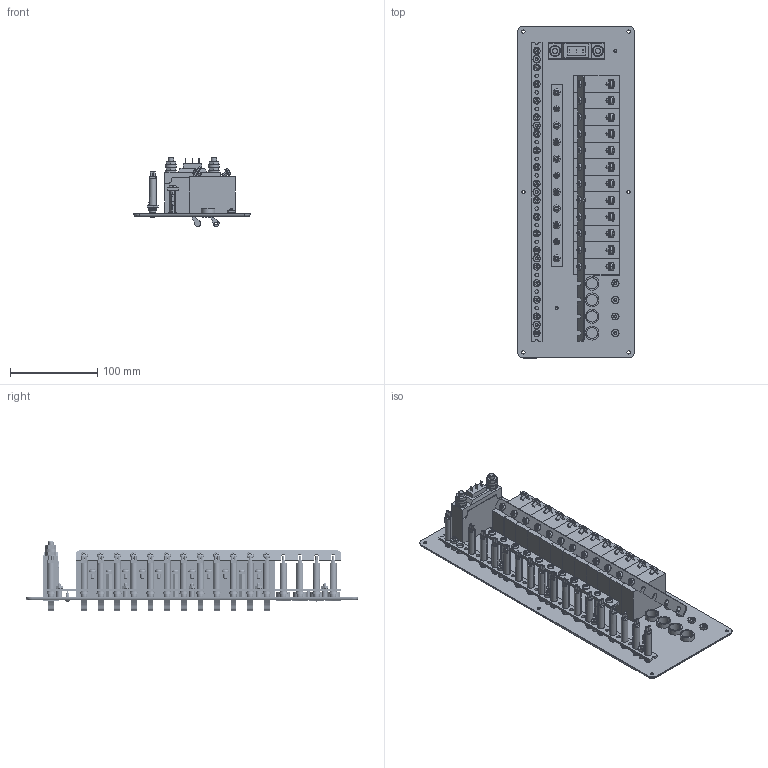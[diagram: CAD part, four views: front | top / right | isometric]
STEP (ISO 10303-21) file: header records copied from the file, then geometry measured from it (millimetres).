
FILE_DESCRIPTION((''),'2;1');
FILE_NAME('11071-0dX_3D.stp','2011-05-05T10:56:56',(''),(''),'Mechanical Desktop 2008','Mechanical Desktop 2008',', , ');
FILE_SCHEMA(('CONFIG_CONTROL_DESIGN'));
Length unit declared in the file: inch
Products named in the file (45): 11071-0DX_3D; 12355-0C1_3D; 12355-0C1_3DA; 578-2800-0_3DA; 578-2800-0_3D; 999-0270-4_3D; 999-0270-4_3DA; 754-0604-5_3D; 754-0604-5_3DA; 12291-8B1_3D; 12291-8B1_3DA; 740-0601-2_3D; 740-0601-2_3DA; 754-0608-1_3D; 754-0608-1_3DA; 754-0608-2_3D; 754-0608-2_3DA; 12301-1N1_3D; 12301-1N1_3DA; 718-0605-5_3D; 718-0605-5_3DA; 718-0805-2_3DA; 718-0805-2_3D; 999-0625-0_3D; 999-0625-0_3DA; 564-1101-2_3D; 564-1101-2_3DA; 568-0051-2_3D; 568-0051-2_3DA; 568-0101-2_3DA; 568-0101-2_3D; 568-0151-2_3D; 568-0151-2_3DA; 568-0201-2_3D; 568-0201-2_3DA; 12151-6B1_3D; 12151-6B1_3DA; 718-0804-2_3DA; 718-0804-2_3D; 742-0601-2_3D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
Assembly tree (146 placements, depth 3):
  11071-0DX_3D
    12355-0C1_3D
      12355-0C1_3DA
    578-2800-0_3DA  x17
      578-2800-0_3D
    999-0270-4_3D
      999-0270-4_3DA
    754-0604-5_3D  x5
      754-0604-5_3DA
    12291-8B1_3D
      12291-8B1_3DA
    740-0601-2_3D  x3
      740-0601-2_3DA
    754-0608-1_3D  x3
      754-0608-1_3DA
    754-0608-2_3D  x3
      754-0608-2_3DA
    12301-1N1_3D
      12301-1N1_3DA
    718-0605-5_3D  x3
      718-0605-5_3DA
    718-0805-2_3DA  x8
      718-0805-2_3D
    999-0625-0_3D  x4
      999-0625-0_3DA
    564-1101-2_3D
      564-1101-2_3DA
    568-0051-2_3D  x2
      568-0051-2_3DA
    568-0101-2_3DA  x3
      568-0101-2_3D
    568-0151-2_3D  x5
      568-0151-2_3DA
    568-0201-2_3D  x2
      568-0201-2_3DA
    12151-6B1_3D
      12151-6B1_3DA
    718-0804-2_3DA  x24
      718-0804-2_3D
    742-0601-2_3D  x9
      742-0601-2_3DA
    735-0632-2_3D  x9
      735-0632-2_3DA
    722-0605-5_3D  x18
      722-0605-5_3DA
Bounding box: 133.35 x 381 x 79.37 mm (x, y, z)
Volume: 795239.7 mm3; surface area: 294672.7 mm2
Topology: 124 solids, 138 shells, 3683 faces, 9004 edges, 5755 vertices
Faces by surface type: plane 1509, cylinder 1423, cone 458, sphere 150, torus 138, bspline 5
Entity records: 36962 total; most frequent: DIRECTION 6680, CARTESIAN_POINT 6667, ORIENTED_EDGE 5734, EDGE_CURVE 2867, AXIS2_PLACEMENT_3D 2635, VERTEX_POINT 1830, EDGE_LOOP 1499, VECTOR 1410
